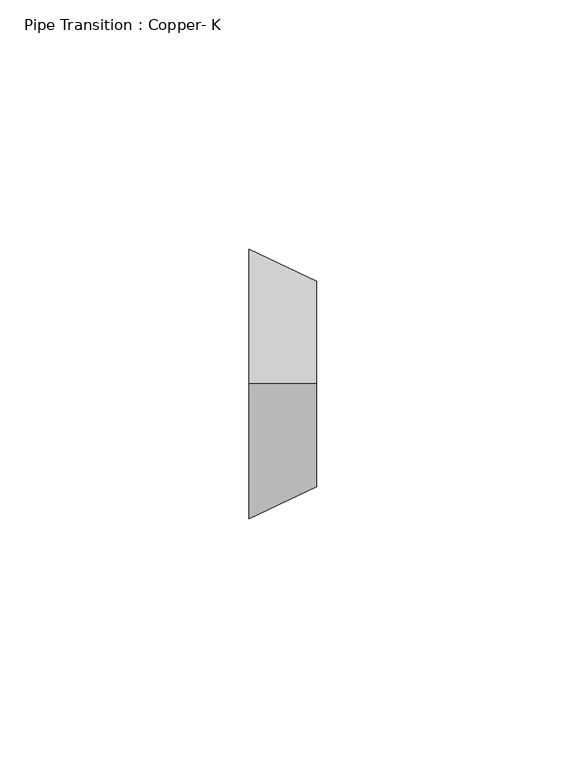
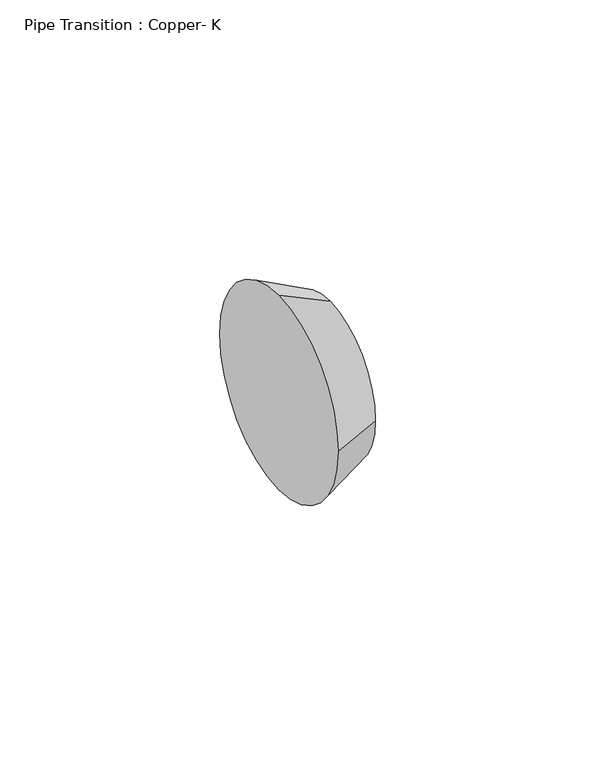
"""IFC4 building model written with IfcOpenShell, lengths in millimetres: pipe fitting geometry, Pipe Transition : Copper- K."""

from ifc_helpers import new_model, si_unit, frame, origin, place, context, project, spatial, polyline, circle_curve, source, transform, mapped, element, save
from ifc_brep_helpers import plane_surface, revolved_surface, advanced_brep


def pipe_transition_copper_k_3b8d3413(model_context):
    return source(origin(), model_context, "Body", "AdvancedBrep", [
        advanced_brep(
        [(13.49375, 0.0, 20.6375), (13.49375, -20.6375, 0.0), (13.49375, 0.0, -20.6375), (13.49375, 20.6375, 0.0), (0.0, 0.0, 26.9875), (0.0, 26.9875, 0.0), (0.0, 0.0, -26.9875), (0.0, -26.9875, 0.0)],
        [
            (0, 1, circle_curve(frame((13.49375, 0.0, 0.0), z_axis=(1.0, 0.0, 0.0), x_axis=(0.0, 0.0, 1.0)), 20.6375)),
            (1, 2, circle_curve(frame((13.49375, 0.0, 0.0), z_axis=(1.0, 0.0, 0.0), x_axis=(0.0, -1.0, 0.0)), 20.6375)),
            (2, 3, circle_curve(frame((13.49375, 0.0, 0.0), z_axis=(1.0, 0.0, 0.0), x_axis=(0.0, 0.0, -1.0)), 20.6375)),
            (3, 0, circle_curve(frame((13.49375, 0.0, 0.0), z_axis=(1.0, 0.0, 0.0), x_axis=(0.0, 1.0, 0.0)), 20.6375)),
            (4, 5, circle_curve(frame((0.0, 0.0, 0.0), z_axis=(-1.0, 0.0, 0.0), x_axis=(0.0, 1.0, 0.0)), 26.9875)),
            (5, 6, circle_curve(frame((0.0, 0.0, 0.0), z_axis=(-1.0, 0.0, 0.0), x_axis=(0.0, 0.0, -1.0)), 26.9875)),
            (6, 7, circle_curve(frame((0.0, 0.0, 0.0), z_axis=(-1.0, 0.0, 0.0), x_axis=(0.0, -1.0, 0.0)), 26.9875)),
            (7, 4, circle_curve(frame((0.0, 0.0, 0.0), z_axis=(-1.0, 0.0, 0.0), x_axis=(0.0, 0.0, 1.0)), 26.9875)),
            (7, 1),
            (0, 4),
            (6, 2),
            (5, 3),
        ],
        [
            plane_surface(frame((13.49375, 0.0, 0.0), z_axis=(1.0, 0.0, 0.0), x_axis=(0.0, -1.0, 0.0))),
            plane_surface(frame((0.0, 0.0, 0.0), z_axis=(-1.0, 0.0, 0.0), x_axis=(0.0, -1.0, 0.0))),
            revolved_surface(polyline([(13.493749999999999, 0.0, 20.637500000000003), (0.0, 0.0, 26.9875)]), (57.3484375, 0.0, 0.0), (-1.0, 0.0, 0.0)),
            revolved_surface(polyline([(13.493749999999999, -20.637500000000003, 0.0), (0.0, -26.9875, 0.0)]), (57.3484375, 0.0, 0.0), (-1.0, 0.0, 0.0)),
            revolved_surface(polyline([(13.493749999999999, 0.0, -20.637500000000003), (0.0, 0.0, -26.9875)]), (57.3484375, 0.0, 0.0), (-1.0, 0.0, 0.0)),
            revolved_surface(polyline([(13.493749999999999, 20.637500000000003, 0.0), (0.0, 26.9875, 0.0)]), (57.3484375, 0.0, 0.0), (-1.0, 0.0, 0.0)),
        ],
        [
            (0, [[1, 2, 3, 4]]),
            (1, [[5, 6, 7, 8]]),
            (2, [[-8, 9, -1, 10]]),
            (3, [[-7, 11, -2, -9]]),
            (4, [[-6, 12, -3, -11]]),
            (5, [[-5, -10, -4, -12]]),
        ],
    ),
        advanced_brep(
        [(13.49375, 0.0, 20.6375), (13.49375, -20.6375, 0.0), (13.49375, 0.0, -20.6375), (13.49375, 20.6375, 0.0), (0.0, 0.0, 26.9875), (0.0, 26.9875, 0.0), (0.0, 0.0, -26.9875), (0.0, -26.9875, 0.0)],
        [
            (0, 1, circle_curve(frame((13.49375, 0.0, 0.0), z_axis=(1.0, 0.0, 0.0), x_axis=(0.0, 0.0, 1.0)), 20.6375)),
            (1, 2, circle_curve(frame((13.49375, 0.0, 0.0), z_axis=(1.0, 0.0, 0.0), x_axis=(0.0, -1.0, 0.0)), 20.6375)),
            (2, 3, circle_curve(frame((13.49375, 0.0, 0.0), z_axis=(1.0, 0.0, 0.0), x_axis=(0.0, 0.0, -1.0)), 20.6375)),
            (3, 0, circle_curve(frame((13.49375, 0.0, 0.0), z_axis=(1.0, 0.0, 0.0), x_axis=(0.0, 1.0, 0.0)), 20.6375)),
            (4, 5, circle_curve(frame((0.0, 0.0, 0.0), z_axis=(-1.0, 0.0, 0.0), x_axis=(0.0, 1.0, 0.0)), 26.9875)),
            (5, 6, circle_curve(frame((0.0, 0.0, 0.0), z_axis=(-1.0, 0.0, 0.0), x_axis=(0.0, 0.0, -1.0)), 26.9875)),
            (6, 7, circle_curve(frame((0.0, 0.0, 0.0), z_axis=(-1.0, 0.0, 0.0), x_axis=(0.0, -1.0, 0.0)), 26.9875)),
            (7, 4, circle_curve(frame((0.0, 0.0, 0.0), z_axis=(-1.0, 0.0, 0.0), x_axis=(0.0, 0.0, 1.0)), 26.9875)),
            (7, 1),
            (0, 4),
            (6, 2),
            (5, 3),
        ],
        [
            plane_surface(frame((13.49375, 0.0, 0.0), z_axis=(1.0, 0.0, 0.0), x_axis=(0.0, -1.0, 0.0))),
            plane_surface(frame((0.0, 0.0, 0.0), z_axis=(-1.0, 0.0, 0.0), x_axis=(0.0, -1.0, 0.0))),
            revolved_surface(polyline([(13.493749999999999, 0.0, 20.637500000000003), (0.0, 0.0, 26.9875)]), (57.3484375, 0.0, 0.0), (-1.0, 0.0, 0.0)),
            revolved_surface(polyline([(13.493749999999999, -20.637500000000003, 0.0), (0.0, -26.9875, 0.0)]), (57.3484375, 0.0, 0.0), (-1.0, 0.0, 0.0)),
            revolved_surface(polyline([(13.493749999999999, 0.0, -20.637500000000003), (0.0, 0.0, -26.9875)]), (57.3484375, 0.0, 0.0), (-1.0, 0.0, 0.0)),
            revolved_surface(polyline([(13.493749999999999, 20.637500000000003, 0.0), (0.0, 26.9875, 0.0)]), (57.3484375, 0.0, 0.0), (-1.0, 0.0, 0.0)),
        ],
        [
            (0, [[1, 2, 3, 4]]),
            (1, [[5, 6, 7, 8]]),
            (2, [[-8, 9, -1, 10]]),
            (3, [[-7, 11, -2, -9]]),
            (4, [[-6, 12, -3, -11]]),
            (5, [[-5, -10, -4, -12]]),
        ],
    ),
    ])


if __name__ == "__main__":
    model = new_model("IFC4")
    model_context = context("Model", 3, world=origin())
    ifc_project = project(units=[si_unit("LENGTHUNIT", "METRE", prefix="MILLI")], contexts=[model_context])
    site = spatial("IfcSite", under=ifc_project)
    building = spatial("IfcBuilding", under=site)
    placement = place(None, origin())
    pipe_transition_copper_k_shape = pipe_transition_copper_k_3b8d3413(model_context)
    element("IfcPipeFitting", 1, ObjectType="Pipe Transition : Copper- K", at=placement, inside=building, context=model_context, shape_type="MappedRepresentation", body=[
        mapped(pipe_transition_copper_k_shape, transform((0.0, 0.0, 0.0), x_axis=(1.0, 0.0, 0.0), y_axis=(0.0, 1.0, 0.0), z_axis=(0.0, 0.0, 1.0))),
    ])
    save(model, "model.ifc")
